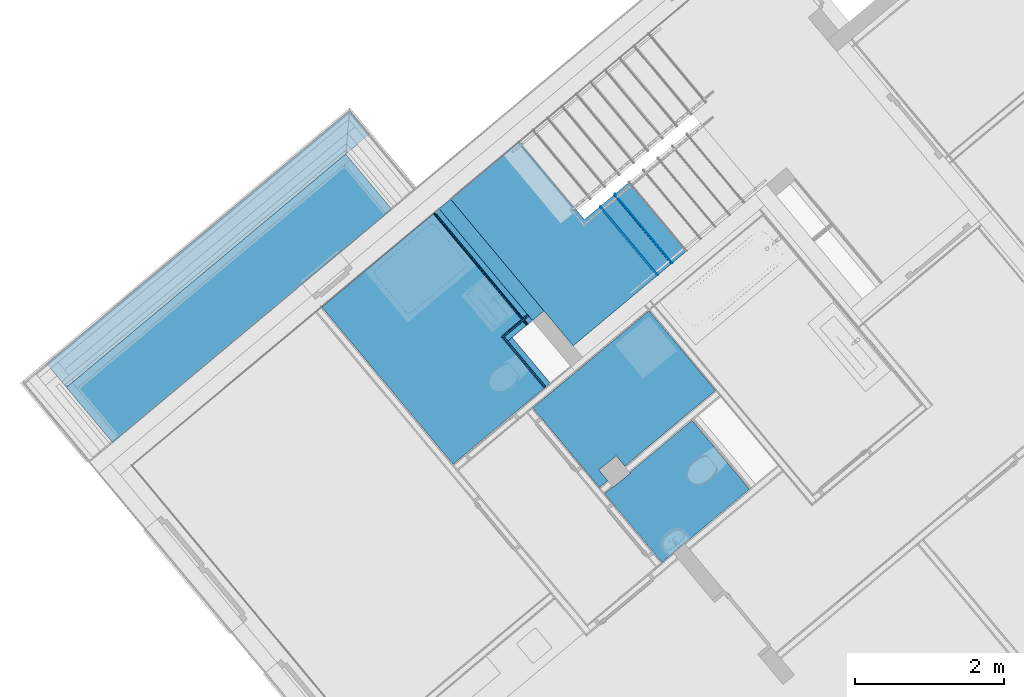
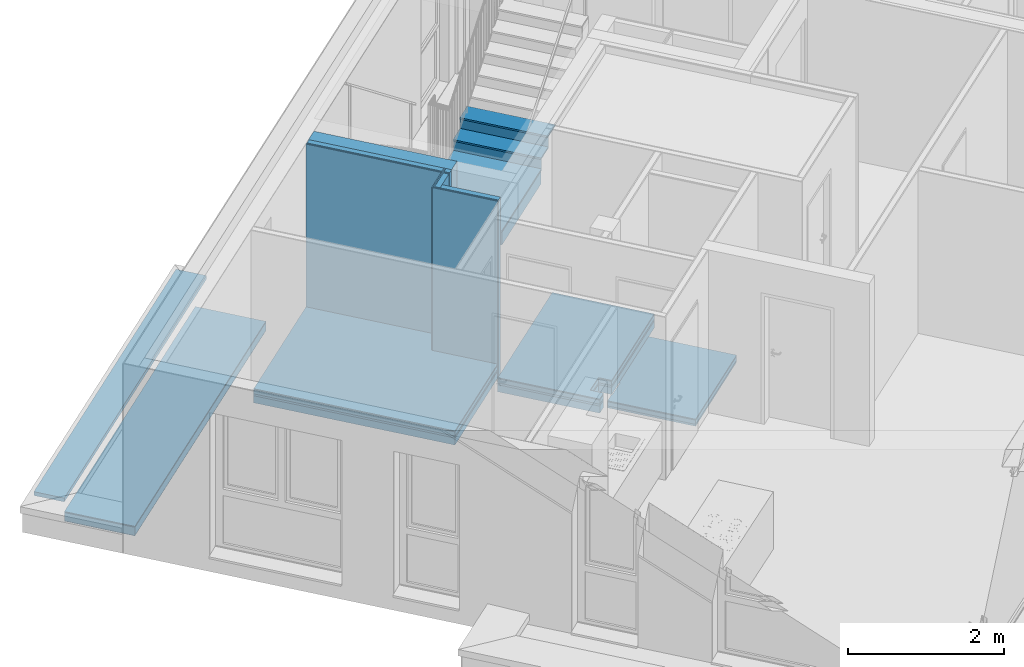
# One storey, part 24 of 58: 31 building element parts, 9 elements without a shape of their own.
"""IFC4 building model written with IfcOpenShell, lengths in metres."""

import ifcopenshell
import ifcopenshell.guid

model = None  # the IFC model being written
_history = None  # IfcOwnerHistory: only IFC2X3 demands one
_inside = {}  # id of a spatial element -> (the spatial element, [elements in it])
_under = {}  # id of a project, library or spatial element -> (it, [spatial elements below it])
_declared = {}  # id of a project -> (the project, [libraries it declares])
_typed = {}  # id of a type object -> (the type object, [elements of that type])
_made_of = {}  # id of a material, layer set ... -> (it, [elements and type objects made of it])


def new_model(schema):
    """Start an empty IFC model of exactly this schema.

    Asked for "IFC4X3", IfcOpenShell would pick the latest addendum, in which some entities
    have other attributes; the version numbers below select the first issue.
    IFC2X3 requires an IfcOwnerHistory on every rooted entity: one is made here for all.
    """
    global model, _history
    if schema == "IFC4X3":
        model = ifcopenshell.file(schema_version=(4, 3, 0, 0))
    else:
        model = ifcopenshell.file(schema=schema)
    _inside.clear()
    _under.clear()
    _declared.clear()
    _typed.clear()
    _made_of.clear()
    _history = None
    if model.schema == "IFC2X3":
        org = make("IfcOrganization", Name="unknown")
        user = make(
            "IfcPersonAndOrganization",
            ThePerson=make("IfcPerson", FamilyName="unknown"),
            TheOrganization=org,
        )
        app = make(
            "IfcApplication",
            ApplicationDeveloper=org,
            Version="unknown",
            ApplicationFullName="unknown",
            ApplicationIdentifier="unknown",
        )
        _history = make(
            "IfcOwnerHistory",
            OwningUser=user,
            OwningApplication=app,
            ChangeAction="ADDED",
            CreationDate=0,
        )
    return model


def make(cls, **values):
    """One entity of the class cls with the attributes given. An attribute that is None is left unset."""
    return model.create_entity(
        cls, **{name: value for name, value in values.items() if value is not None}
    )


def entity(cls, *values):
    """Any entity or typed value of the class cls, its attributes in the order of the schema. None: left unset."""
    e = model.create_entity(cls)
    for i, value in enumerate(values):
        if value is not None:
            e[i] = value
    return e


def rooted(cls, **values):
    """An entity with a GlobalId (a new one), such as an element, a storey or a relation."""
    return make(cls, GlobalId=ifcopenshell.guid.new(), OwnerHistory=_history, **values)


def si_unit(unit_type, name, prefix=None):
    """IfcSIUnit, for example si_unit("LENGTHUNIT", "METRE", prefix="MILLI")."""
    return make("IfcSIUnit", UnitType=unit_type, Prefix=prefix, Name=name)


def converted_unit(unit_type, name, factor, base, dimensions=None, offset=None):
    """IfcConversionBasedUnit, such as the inch: factor (a typed value) times the base unit."""
    return make(
        "IfcConversionBasedUnit"
        if offset is None
        else "IfcConversionBasedUnitWithOffset",
        ConversionOffset=offset,
        Dimensions=None
        if dimensions is None
        else entity("IfcDimensionalExponents", *dimensions),
        UnitType=unit_type,
        Name=name,
        ConversionFactor=make(
            "IfcMeasureWithUnit", ValueComponent=factor, UnitComponent=base
        ),
    )


def derived_unit(unit_type, elements):
    """IfcDerivedUnit: a product of units, each with its exponent."""
    return make(
        "IfcDerivedUnit",
        Elements=[
            make("IfcDerivedUnitElement", Unit=unit, Exponent=power)
            for unit, power in elements
        ],
        UnitType=unit_type,
    )


def assignment(units):
    """IfcUnitAssignment: the units of a project."""
    return None if units is None else make("IfcUnitAssignment", Units=units)


def point(xyz):
    """IfcCartesianPoint."""
    return None if xyz is None else make("IfcCartesianPoint", Coordinates=xyz)


def direction(xyz):
    """IfcDirection."""
    return None if xyz is None else make("IfcDirection", DirectionRatios=xyz)


def frame(location, z_axis=None, x_axis=None):
    """IfcAxis2Placement3D, a coordinate frame: its origin and axes. An axis left out is left unset."""
    return make(
        "IfcAxis2Placement3D",
        Location=point(location),
        Axis=direction(z_axis),
        RefDirection=direction(x_axis),
    )


def origin_with_axes():
    """The frame at (0, 0, 0) with the z axis (0, 0, 1) and the x axis (1, 0, 0) written out."""
    return frame((0.0, 0.0, 0.0), z_axis=(0.0, 0.0, 1.0), x_axis=(1.0, 0.0, 0.0))


def place(relative_to, where):
    """IfcLocalPlacement: puts the frame where relative to a parent placement (None: the world)."""
    return make(
        "IfcLocalPlacement", PlacementRelTo=relative_to, RelativePlacement=where
    )


def context(
    kind, dimensions, precision=None, world=None, true_north=None, identifier=None
):
    """IfcGeometricRepresentationContext, for example the 3D "Model" context."""
    return make(
        "IfcGeometricRepresentationContext",
        ContextIdentifier=identifier,
        ContextType=kind,
        CoordinateSpaceDimension=dimensions,
        Precision=precision,
        WorldCoordinateSystem=world,
        TrueNorth=true_north,
    )


def subcontext(parent, identifier, kind, view, scale=None):
    """IfcGeometricRepresentationSubContext, for example "Body" below "Model"."""
    return make(
        "IfcGeometricRepresentationSubContext",
        ContextIdentifier=identifier,
        ContextType=kind,
        ParentContext=parent,
        TargetScale=scale,
        TargetView=view,
    )


def project(units=None, contexts=None):
    """IfcProject with its units and contexts."""
    return rooted(
        "IfcProject",
        Name="project",
        RepresentationContexts=contexts,
        UnitsInContext=assignment(units),
    )


def spatial(cls, under=None, at=None, **own):
    """A site, building, storey or space (cls), placed at a placement, below another one or the project."""
    s = rooted(cls, ObjectPlacement=at, **own)
    if under is not None:
        _under.setdefault(under.id(), (under, []))[1].append(s)
    return s


def point_list(points):
    """IfcCartesianPointList2D or 3D."""
    cls = (
        "IfcCartesianPointList2D" if len(points[0]) == 2 else "IfcCartesianPointList3D"
    )
    return make(cls, CoordList=points)


def polygons(points, faces, closed=None, point_numbers=None):
    """IfcPolygonalFaceSet: a face is its outer loop, then its inner loops; points numbered from 1."""
    made = []
    for loops in faces:
        if len(loops) == 1:
            made.append(make("IfcIndexedPolygonalFace", CoordIndex=loops[0]))
        else:
            made.append(
                make(
                    "IfcIndexedPolygonalFaceWithVoids",
                    CoordIndex=loops[0],
                    InnerCoordIndices=loops[1:],
                )
            )
    return make(
        "IfcPolygonalFaceSet",
        Coordinates=point_list(points),
        Closed=closed,
        Faces=made,
        PnIndex=point_numbers,
    )


def shape(context_of_items, identifier, shape_type, items):
    """IfcShapeRepresentation: the items that make up one representation, for example the "Body"."""
    return make(
        "IfcShapeRepresentation",
        ContextOfItems=context_of_items,
        RepresentationIdentifier=identifier,
        RepresentationType=shape_type,
        Items=items,
    )


def material(Name=None, Category=None):
    """IfcMaterial."""
    return make("IfcMaterial", Name=Name, Category=Category)


def made_of(thing, what):
    """Note that an element or type object is made of a material, layer set ...; save() writes the relation."""
    if what is not None:
        _made_of.setdefault(what.id(), (what, []))[1].append(thing)
    return thing


def type_object(cls, material=None, **own):
    """A type object (cls), such as IfcWallType, which elements share."""
    return made_of(rooted(cls, **own), material)


def element(
    cls,
    number,
    at=None,
    inside=None,
    cuts=None,
    type_object=None,
    material=None,
    context=None,
    identifier="Body",
    shape_type=None,
    held_by="IfcProductDefinitionShape",
    body=None,
    shapes=None,
    **own,
):
    """One element of the class cls, such as IfcWall. Its Tag is "e" and its number.

    at: its placement. inside: the storey or other place that contains it. cuts: it is an
    opening in that element (IfcRelVoidsElement). A single representation is given by context,
    identifier, shape_type and body (its items); several are given by shapes. held_by: the class
    of the entity that holds the representations. save() writes the other relations.
    """
    e = rooted(cls, Tag="e%d" % number, ObjectPlacement=at, **own)
    if body is not None:
        shapes = [shape(context, identifier, shape_type, body)]
    if shapes is not None:
        e.Representation = make(held_by, Representations=shapes)
    if inside is not None:
        _inside.setdefault(inside.id(), (inside, []))[1].append(e)
    if cuts is not None:
        rooted(
            "IfcRelVoidsElement", RelatingBuildingElement=cuts, RelatedOpeningElement=e
        )
    if type_object is not None:
        _typed.setdefault(type_object.id(), (type_object, []))[1].append(e)
    return made_of(e, material)


def aggregate(whole, parts):
    """IfcRelAggregates: a whole, such as a stair, and the parts it consists of."""
    return rooted("IfcRelAggregates", RelatingObject=whole, RelatedObjects=parts)


def save(model, path):
    """Write the relations noted so far, then the file.

    IfcRelAggregates (storeys below a building ...), IfcRelContainedInSpatialStructure (elements
    in a storey), IfcRelDefinesByType, IfcRelAssociatesMaterial and IfcRelDeclares: one each for
    every whole, place, type object, material and project.
    """
    for whole, parts in _under.values():
        aggregate(whole, parts)
    for where, things in _inside.values():
        rooted(
            "IfcRelContainedInSpatialStructure",
            RelatedElements=things,
            RelatingStructure=where,
        )
    for kind, things in _typed.values():
        rooted("IfcRelDefinesByType", RelatedObjects=things, RelatingType=kind)
    for what, things in _made_of.values():
        rooted("IfcRelAssociatesMaterial", RelatedObjects=things, RelatingMaterial=what)
    for by, libraries in _declared.values():
        rooted("IfcRelDeclares", RelatingContext=by, RelatedDefinitions=libraries)
    model.write(path)


model = new_model("IFC4")

# Units and contexts
model_context = context("Model", 3, precision=1e-05, world=origin_with_axes(), true_north=direction((0.0, 1.0)))
body_context = subcontext(model_context, "Body", "Model", "MODEL_VIEW")
ifc_project = project(units=[si_unit("LENGTHUNIT", "METRE"), si_unit("AREAUNIT", "SQUARE_METRE"), si_unit("VOLUMEUNIT", "CUBIC_METRE"), converted_unit("PLANEANGLEUNIT", "DEGREE", entity("IfcPlaneAngleMeasure", 0.0174532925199), si_unit("PLANEANGLEUNIT", "RADIAN"), dimensions=[0, 0, 0, 0, 0, 0, 0]), converted_unit("TIMEUNIT", "Year", entity("IfcTimeMeasure", 31556926.0), si_unit("TIMEUNIT", "SECOND"), dimensions=[0, 0, 1, 0, 0, 0, 0]), si_unit("MASSUNIT", "GRAM", prefix="KILO"), si_unit("THERMODYNAMICTEMPERATUREUNIT", "DEGREE_CELSIUS"), si_unit("LUMINOUSINTENSITYUNIT", "LUMEN"), si_unit("ENERGYUNIT", "JOULE", prefix="MEGA"), derived_unit("THERMALCONDUCTANCEUNIT", [(si_unit("POWERUNIT", "WATT"), 1), (si_unit("LENGTHUNIT", "METRE"), -1), (si_unit("THERMODYNAMICTEMPERATUREUNIT", "KELVIN"), -1)]), derived_unit("SPECIFICHEATCAPACITYUNIT", [(si_unit("ENERGYUNIT", "JOULE"), 1), (si_unit("MASSUNIT", "GRAM", prefix="KILO"), -1), (si_unit("THERMODYNAMICTEMPERATUREUNIT", "KELVIN"), -1)]), derived_unit("MASSDENSITYUNIT", [(si_unit("MASSUNIT", "GRAM", prefix="KILO"), 1), (si_unit("VOLUMEUNIT", "CUBIC_METRE"), -1)])], contexts=[model_context])

# Site, building, storey
site_placement = place(None, frame((-0.00153261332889, -0.00661245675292, 0.0), z_axis=(0.0, 0.0, 1.0), x_axis=(1.0, 0.0, 0.0)))
site = spatial("IfcSite", under=ifc_project, at=site_placement, Name="Site", CompositionType="ELEMENT")
building_placement = place(site_placement, origin_with_axes())
building = spatial("IfcBuilding", under=site, at=building_placement, Name="Building", CompositionType="ELEMENT")
storey_placement = place(building_placement, frame((0.0, 0.0, 5.7), z_axis=(0.0, 0.0, 1.0), x_axis=(1.0, 0.0, 0.0)))
storey = spatial("IfcBuildingStorey", under=building, at=storey_placement, Name="DG1", CompositionType="ELEMENT", Elevation=5.7)

# Wall, building element parts
wall_type_1 = type_object("IfcWallType", Name="LB 10,5 cm doppelte Vorsatzschale Bad 105", PredefinedType="NOTDEFINED")
wall_1_placement = place(storey_placement, frame((-3.007781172, 20.6786353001, 0.0), z_axis=(0.0, 0.0, 1.0), x_axis=(0.641209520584, -0.767365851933, 0.0)))
wall_1 = element("IfcWall", 1, at=wall_1_placement, inside=storey, type_object=wall_type_1, Name="Wand-004", PredefinedType="NOTDEFINED")
ifc_material_1 = material(Name="Mineralwolle weich")
building_element_part_1_placement = place(wall_1_placement, origin_with_axes())
building_element_part_1 = element("IfcBuildingElementPart", 2, at=building_element_part_1_placement, material=ifc_material_1, Name="Mineralwolle weich", PredefinedType="NOTDEFINED", context=body_context, shape_type="Tessellation", body=[
    polygons([(0.795549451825, 0.0, 2.76), (0.0, 0.0, 2.76), (0.0, -0.075, 2.76), (0.795584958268, -0.075, 2.76), (0.795549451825, 0.0, 0.0), (0.0, 0.0, 0.0), (0.0, -0.075, 0.0), (0.795584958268, -0.075, 0.0)], [[[1, 2, 3, 4]], [[5, 6, 2, 1]], [[3, 2, 6, 7]], [[4, 3, 7, 8]], [[4, 8, 5, 1]], [[8, 7, 6, 5]]], closed=True),
])
ifc_material_2 = material(Name="Gipskarton")
building_element_part_2_placement = place(wall_1_placement, origin_with_axes())
building_element_part_2 = element("IfcBuildingElementPart", 3, at=building_element_part_2_placement, material=ifc_material_2, Name="Gipskarton", PredefinedType="NOTDEFINED", context=body_context, shape_type="Tessellation", body=[
    polygons([(0.795584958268, -0.075, 2.76), (-0.0750000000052, -0.075, 2.76), (-0.0750000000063, -0.09, 2.76), (0.795592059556, -0.09, 2.76), (0.795584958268, -0.075, 0.0), (-0.0750000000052, -0.075, 0.0), (-0.0750000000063, -0.09, 0.0), (0.795592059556, -0.09, 0.0)], [[[1, 2, 3, 4]], [[5, 6, 2, 1]], [[3, 2, 6, 7]], [[4, 3, 7, 8]], [[4, 8, 5, 1]], [[8, 7, 6, 5]]], closed=True),
])
building_element_part_3_placement = place(wall_1_placement, origin_with_axes())
building_element_part_3 = element("IfcBuildingElementPart", 4, at=building_element_part_3_placement, material=ifc_material_2, Name="Gipskarton", PredefinedType="NOTDEFINED", context=body_context, shape_type="Tessellation", body=[
    polygons([(0.795592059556, -0.09, 2.76), (-0.0900000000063, -0.09, 2.76), (-0.0900000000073, -0.105, 2.76), (0.795599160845, -0.105, 2.76), (0.795592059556, -0.09, 0.0), (-0.0900000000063, -0.09, 0.0), (-0.0900000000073, -0.105, 0.0), (0.795599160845, -0.105, 0.0)], [[[1, 2, 3, 4]], [[5, 6, 2, 1]], [[3, 2, 6, 7]], [[4, 3, 7, 8]], [[4, 8, 5, 1]], [[8, 7, 6, 5]]], closed=True),
])
aggregate(wall_1, [building_element_part_1, building_element_part_2, building_element_part_3])

wall_2_placement = place(storey_placement, frame((-2.73492476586, 20.9066336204, 0.0), z_axis=(0.0, 0.0, 1.0), x_axis=(-0.767365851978, -0.64120952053, 0.0)))
wall_2 = element("IfcWall", 5, at=wall_2_placement, inside=storey, type_object=wall_type_1, Name="Wand-004", PredefinedType="NOTDEFINED")
building_element_part_4_placement = place(wall_2_placement, origin_with_axes())
building_element_part_4 = element("IfcBuildingElementPart", 6, at=building_element_part_4_placement, material=ifc_material_1, Name="Mineralwolle weich", PredefinedType="NOTDEFINED", context=body_context, shape_type="Tessellation", body=[
    polygons([(0.430575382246, 0.0, 2.76), (0.0, 0.0, 2.76), (0.0, -0.075, 2.76), (0.430575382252, -0.075, 2.76), (0.430575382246, 0.0, 0.0), (0.0, 0.0, 0.0), (0.0, -0.075, 0.0), (0.430575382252, -0.075, 0.0)], [[[1, 2, 3, 4]], [[5, 6, 2, 1]], [[3, 2, 6, 7]], [[4, 3, 7, 8]], [[4, 8, 5, 1]], [[8, 7, 6, 5]]], closed=True),
])
building_element_part_5_placement = place(wall_2_placement, origin_with_axes())
building_element_part_5 = element("IfcBuildingElementPart", 7, at=building_element_part_5_placement, material=ifc_material_2, Name="Gipskarton", PredefinedType="NOTDEFINED", context=body_context, shape_type="Tessellation", body=[
    polygons([(0.445575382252, -0.075, 2.76), (0.0, -0.075, 2.76), (0.0, -0.09, 2.76), (0.445575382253, -0.09, 2.76), (0.445575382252, -0.075, 0.0), (0.0, -0.075, 0.0), (0.0, -0.09, 0.0), (0.445575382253, -0.09, 0.0)], [[[1, 2, 3, 4]], [[5, 6, 2, 1]], [[3, 2, 6, 7]], [[4, 3, 7, 8]], [[4, 8, 5, 1]], [[8, 7, 6, 5]]], closed=True),
])
building_element_part_6_placement = place(wall_2_placement, origin_with_axes())
building_element_part_6 = element("IfcBuildingElementPart", 8, at=building_element_part_6_placement, material=ifc_material_2, Name="Gipskarton", PredefinedType="NOTDEFINED", context=body_context, shape_type="Tessellation", body=[
    polygons([(0.460575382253, -0.09, 2.76), (0.0, -0.09, 2.76), (0.0, -0.105, 2.76), (0.460575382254, -0.105, 2.76), (0.460575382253, -0.09, 0.0), (0.0, -0.09, 0.0), (0.0, -0.105, 0.0), (0.460575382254, -0.105, 0.0)], [[[1, 2, 3, 4]], [[5, 6, 2, 1]], [[3, 2, 6, 7]], [[4, 3, 7, 8]], [[4, 8, 5, 1]], [[8, 7, 6, 5]]], closed=True),
])
aggregate(wall_2, [building_element_part_4, building_element_part_5, building_element_part_6])

wall_type_2 = type_object("IfcWallType", Name="LB 10,5 cm doppelte Vorsatzschale Bad + STB 305", PredefinedType="NOTDEFINED")
wall_3_placement = place(storey_placement, frame((-2.58145159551, 21.0348755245, 0.0), z_axis=(0.0, 0.0, 1.0), x_axis=(-0.641209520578, 0.767365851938, 0.0)))
wall_3 = element("IfcWall", 9, at=wall_3_placement, inside=storey, type_object=wall_type_2, Name="Wand-003", PredefinedType="NOTDEFINED")
building_element_part_7_placement = place(wall_3_placement, origin_with_axes())
building_element_part_7 = element("IfcBuildingElementPart", 10, at=building_element_part_7_placement, material=ifc_material_2, Name="Gipskarton", PredefinedType="NOTDEFINED", context=body_context, shape_type="Tessellation", body=[
    polygons([(1.94498975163, 0.29, 0.0), (0.0, 0.29, 0.0), (0.0, 0.305, 0.0), (1.94498975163, 0.305, 0.0), (1.94498975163, 0.29, 2.76), (0.0, 0.29, 2.76), (0.0, 0.305, 2.76), (1.94498975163, 0.305, 2.76)], [[[1, 2, 3, 4]], [[5, 6, 2, 1]], [[3, 2, 6, 7]], [[4, 3, 7, 8]], [[4, 8, 5, 1]], [[8, 7, 6, 5]]], closed=True),
])
building_element_part_8_placement = place(wall_3_placement, origin_with_axes())
building_element_part_8 = element("IfcBuildingElementPart", 11, at=building_element_part_8_placement, material=ifc_material_2, Name="Gipskarton", PredefinedType="NOTDEFINED", context=body_context, shape_type="Tessellation", body=[
    polygons([(1.94498975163, 0.275, 0.0), (0.0, 0.275, 0.0), (0.0, 0.29, 0.0), (1.94498975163, 0.29, 0.0), (1.94498975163, 0.275, 2.76), (0.0, 0.275, 2.76), (0.0, 0.29, 2.76), (1.94498975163, 0.29, 2.76)], [[[1, 2, 3, 4]], [[5, 6, 2, 1]], [[3, 2, 6, 7]], [[4, 3, 7, 8]], [[4, 8, 5, 1]], [[8, 7, 6, 5]]], closed=True),
])
building_element_part_9_placement = place(wall_3_placement, origin_with_axes())
building_element_part_9 = element("IfcBuildingElementPart", 12, at=building_element_part_9_placement, material=ifc_material_1, Name="Mineralwolle weich", PredefinedType="NOTDEFINED", context=body_context, shape_type="Tessellation", body=[
    polygons([(1.94498975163, 0.2, 0.0), (0.0, 0.2, 0.0), (0.0, 0.275, 0.0), (1.94498975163, 0.275, 0.0), (1.94498975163, 0.2, 2.76), (0.0, 0.2, 2.76), (0.0, 0.275, 2.76), (1.94498975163, 0.275, 2.76)], [[[1, 2, 3, 4]], [[5, 6, 2, 1]], [[3, 2, 6, 7]], [[4, 3, 7, 8]], [[4, 8, 5, 1]], [[8, 7, 6, 5]]], closed=True),
])
ifc_material_3 = material(Name="Stahlbeton Wand")
building_element_part_10_placement = place(wall_3_placement, origin_with_axes())
building_element_part_10 = element("IfcBuildingElementPart", 13, at=building_element_part_10_placement, material=ifc_material_3, Name="Stahlbeton Wand", PredefinedType="NOTDEFINED", context=body_context, shape_type="Tessellation", body=[
    polygons([(1.94998975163, 0.0, 0.0), (0.0, 0.0, 0.0), (0.0, 0.2, 0.0), (1.94998975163, 0.2, 0.0), (1.94998975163, 0.0, 2.76), (0.0, 0.0, 2.76), (0.0, 0.2, 2.76), (1.94998975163, 0.2, 2.76)], [[[1, 2, 3, 4]], [[5, 6, 2, 1]], [[3, 2, 6, 7]], [[4, 3, 7, 8]], [[4, 8, 5, 1]], [[8, 7, 6, 5]]], closed=True),
])
aggregate(wall_3, [building_element_part_7, building_element_part_8, building_element_part_9, building_element_part_10])

# Covering, building element parts
covering_type_1 = type_object("IfcCoveringType", Name="DE 01 Decke Wohnung/Wohnung Fließen 220", PredefinedType="NOTDEFINED")
covering_1_placement = place(storey_placement, frame((-4.06264411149, 22.3318253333, 0.22), z_axis=(0.0, 0.0, 1.0), x_axis=(1.0, 0.0, 0.0)))
covering_1 = element("IfcCovering", 14, at=covering_1_placement, inside=storey, type_object=covering_type_1, Name="Decke-004", PredefinedType="NOTDEFINED")
ifc_material_4 = material(Name="Fliesen")
building_element_part_11_placement = place(covering_1_placement, origin_with_axes())
building_element_part_11 = element("IfcBuildingElementPart", 15, at=building_element_part_11_placement, material=ifc_material_4, Name="Fliesen", PredefinedType="NOTDEFINED", context=body_context, shape_type="Tessellation", body=[
    polygons([(-1.49248991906, -1.24712185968, -0.015), (-1.49248991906, -1.24712185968, 0.0), (0.0, 0.0, 0.0), (0.0, 0.0, -0.015), (0.265284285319, -3.35073360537, -0.015), (0.265284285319, -3.35073360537, 0.0), (1.48443528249, -2.33103266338, 0.0), (0.906962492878, -1.63994360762, 0.0), (1.17981894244, -1.411945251, 0.0), (1.17981894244, -1.411945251, -0.015), (0.906962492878, -1.63994360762, -0.015), (1.48443528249, -2.33103266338, -0.015)], [[[1, 2, 3, 4]], [[5, 6, 2, 1]], [[3, 2, 6, 7, 8, 9]], [[4, 3, 9, 10]], [[4, 10, 11, 12, 5, 1]], [[12, 7, 6, 5]], [[11, 8, 7, 12]], [[10, 9, 8, 11]]], closed=True),
])
ifc_material_5 = material(Name="Estrich")
building_element_part_12_placement = place(covering_1_placement, origin_with_axes())
building_element_part_12 = element("IfcBuildingElementPart", 16, at=building_element_part_12_placement, material=ifc_material_5, Name="Estrich", PredefinedType="NOTDEFINED", context=body_context, shape_type="Tessellation", body=[
    polygons([(-1.49248991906, -1.24712185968, -0.08), (-1.49248991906, -1.24712185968, -0.015), (0.0, 0.0, -0.015), (0.0, 0.0, -0.08), (0.265284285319, -3.35073360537, -0.08), (0.265284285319, -3.35073360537, -0.015), (1.48443528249, -2.33103266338, -0.015), (0.906962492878, -1.63994360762, -0.015), (1.17981894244, -1.411945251, -0.015), (1.17981894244, -1.411945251, -0.08), (0.906962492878, -1.63994360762, -0.08), (1.48443528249, -2.33103266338, -0.08)], [[[1, 2, 3, 4]], [[5, 6, 2, 1]], [[3, 2, 6, 7, 8, 9]], [[4, 3, 9, 10]], [[4, 10, 11, 12, 5, 1]], [[12, 7, 6, 5]], [[11, 8, 7, 12]], [[10, 9, 8, 11]]], closed=True),
])
ifc_material_6 = material(Name="Trittschalldämmung")
building_element_part_13_placement = place(covering_1_placement, origin_with_axes())
building_element_part_13 = element("IfcBuildingElementPart", 17, at=building_element_part_13_placement, material=ifc_material_6, Name="Trittschalldämmung", PredefinedType="NOTDEFINED", context=body_context, shape_type="Tessellation", body=[
    polygons([(-1.49248991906, -1.24712185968, -0.11), (-1.49248991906, -1.24712185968, -0.08), (0.0, 0.0, -0.08), (0.0, 0.0, -0.11), (0.265284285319, -3.35073360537, -0.11), (0.265284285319, -3.35073360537, -0.08), (1.48443528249, -2.33103266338, -0.08), (0.906962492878, -1.63994360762, -0.08), (1.17981894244, -1.411945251, -0.08), (1.17981894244, -1.411945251, -0.11), (0.906962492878, -1.63994360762, -0.11), (1.48443528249, -2.33103266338, -0.11)], [[[1, 2, 3, 4]], [[5, 6, 2, 1]], [[3, 2, 6, 7, 8, 9]], [[4, 3, 9, 10]], [[4, 10, 11, 12, 5, 1]], [[12, 7, 6, 5]], [[11, 8, 7, 12]], [[10, 9, 8, 11]]], closed=True),
])
ifc_material_7 = material(Name="Schüttung")
building_element_part_14_placement = place(covering_1_placement, origin_with_axes())
building_element_part_14 = element("IfcBuildingElementPart", 18, at=building_element_part_14_placement, material=ifc_material_7, Name="Schüttung", PredefinedType="NOTDEFINED", context=body_context, shape_type="Tessellation", body=[
    polygons([(0.0, 0.0, -0.22), (-1.49248991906, -1.24712185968, -0.22), (-1.49248991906, -1.24712185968, -0.11), (0.0, 0.0, -0.11), (1.17981894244, -1.411945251, -0.22), (0.906962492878, -1.63994360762, -0.22), (1.48443528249, -2.33103266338, -0.22), (0.265284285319, -3.35073360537, -0.22), (0.265284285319, -3.35073360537, -0.11), (1.48443528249, -2.33103266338, -0.11), (0.906962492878, -1.63994360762, -0.11), (1.17981894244, -1.411945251, -0.11)], [[[1, 2, 3, 4]], [[1, 5, 6, 7, 8, 2]], [[2, 8, 9, 3]], [[4, 3, 9, 10, 11, 12]], [[5, 1, 4, 12]], [[6, 5, 12, 11]], [[7, 6, 11, 10]], [[8, 7, 10, 9]]], closed=True),
])
aggregate(covering_1, [building_element_part_11, building_element_part_12, building_element_part_13, building_element_part_14])

covering_2_placement = place(storey_placement, frame((-2.72972930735, 19.7371746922, 0.22), z_axis=(0.0, 0.0, 1.0), x_axis=(1.0, 0.0, 0.0)))
covering_2 = element("IfcCovering", 19, at=covering_2_placement, inside=storey, type_object=covering_type_1, Name="Decke-003", PredefinedType="NOTDEFINED")
building_element_part_15_placement = place(covering_2_placement, origin_with_axes())
building_element_part_15 = element("IfcBuildingElementPart", 20, at=building_element_part_15_placement, material=ifc_material_4, Name="Fliesen", PredefinedType="NOTDEFINED", context=body_context, shape_type="Tessellation", body=[
    polygons([(0.89117400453, -1.06651021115, -0.015), (0.89117400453, -1.06651021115, 0.0), (0.0, 0.0, 0.0), (0.0, 0.0, -0.015), (1.00072286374, -0.974971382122, -0.015), (1.00072286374, -0.974971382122, 0.0), (0.883663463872, -0.830548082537, 0.0), (1.11672221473, -0.641647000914, 0.0), (1.2309583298, -0.782587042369, 0.0), (2.44582096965, 0.232549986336, 0.0), (1.55442053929, 1.29933116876, 0.0), (1.55442053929, 1.29933116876, -0.015), (2.44582096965, 0.232549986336, -0.015), (1.2309583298, -0.782587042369, -0.015), (1.11672221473, -0.641647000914, -0.015), (0.883663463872, -0.830548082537, -0.015)], [[[1, 2, 3, 4]], [[5, 6, 2, 1]], [[3, 2, 6, 7, 8, 9, 10, 11]], [[4, 3, 11, 12]], [[4, 12, 13, 14, 15, 16, 5, 1]], [[16, 7, 6, 5]], [[15, 8, 7, 16]], [[14, 9, 8, 15]], [[13, 10, 9, 14]], [[12, 11, 10, 13]]], closed=True),
])
building_element_part_16_placement = place(covering_2_placement, origin_with_axes())
building_element_part_16 = element("IfcBuildingElementPart", 21, at=building_element_part_16_placement, material=ifc_material_5, Name="Estrich", PredefinedType="NOTDEFINED", context=body_context, shape_type="Tessellation", body=[
    polygons([(0.89117400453, -1.06651021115, -0.08), (0.89117400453, -1.06651021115, -0.015), (0.0, 0.0, -0.015), (0.0, 0.0, -0.08), (1.00072286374, -0.974971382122, -0.08), (1.00072286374, -0.974971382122, -0.015), (0.883663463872, -0.830548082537, -0.015), (1.11672221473, -0.641647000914, -0.015), (1.2309583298, -0.782587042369, -0.015), (2.44582096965, 0.232549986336, -0.015), (1.55442053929, 1.29933116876, -0.015), (1.55442053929, 1.29933116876, -0.08), (2.44582096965, 0.232549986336, -0.08), (1.2309583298, -0.782587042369, -0.08), (1.11672221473, -0.641647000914, -0.08), (0.883663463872, -0.830548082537, -0.08)], [[[1, 2, 3, 4]], [[5, 6, 2, 1]], [[3, 2, 6, 7, 8, 9, 10, 11]], [[4, 3, 11, 12]], [[4, 12, 13, 14, 15, 16, 5, 1]], [[16, 7, 6, 5]], [[15, 8, 7, 16]], [[14, 9, 8, 15]], [[13, 10, 9, 14]], [[12, 11, 10, 13]]], closed=True),
])
building_element_part_17_placement = place(covering_2_placement, origin_with_axes())
building_element_part_17 = element("IfcBuildingElementPart", 22, at=building_element_part_17_placement, material=ifc_material_6, Name="Trittschalldämmung", PredefinedType="NOTDEFINED", context=body_context, shape_type="Tessellation", body=[
    polygons([(0.89117400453, -1.06651021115, -0.11), (0.89117400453, -1.06651021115, -0.08), (0.0, 0.0, -0.08), (0.0, 0.0, -0.11), (1.00072286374, -0.974971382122, -0.11), (1.00072286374, -0.974971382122, -0.08), (0.883663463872, -0.830548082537, -0.08), (1.11672221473, -0.641647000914, -0.08), (1.2309583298, -0.782587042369, -0.08), (2.44582096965, 0.232549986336, -0.08), (1.55442053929, 1.29933116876, -0.08), (1.55442053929, 1.29933116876, -0.11), (2.44582096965, 0.232549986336, -0.11), (1.2309583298, -0.782587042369, -0.11), (1.11672221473, -0.641647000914, -0.11), (0.883663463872, -0.830548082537, -0.11)], [[[1, 2, 3, 4]], [[5, 6, 2, 1]], [[3, 2, 6, 7, 8, 9, 10, 11]], [[4, 3, 11, 12]], [[4, 12, 13, 14, 15, 16, 5, 1]], [[16, 7, 6, 5]], [[15, 8, 7, 16]], [[14, 9, 8, 15]], [[13, 10, 9, 14]], [[12, 11, 10, 13]]], closed=True),
])
building_element_part_18_placement = place(covering_2_placement, origin_with_axes())
building_element_part_18 = element("IfcBuildingElementPart", 23, at=building_element_part_18_placement, material=ifc_material_7, Name="Schüttung", PredefinedType="NOTDEFINED", context=body_context, shape_type="Tessellation", body=[
    polygons([(0.0, 0.0, -0.22), (0.89117400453, -1.06651021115, -0.22), (0.89117400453, -1.06651021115, -0.11), (0.0, 0.0, -0.11), (1.55442053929, 1.29933116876, -0.22), (2.44582096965, 0.232549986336, -0.22), (1.2309583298, -0.782587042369, -0.22), (1.11672221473, -0.641647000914, -0.22), (0.883663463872, -0.830548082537, -0.22), (1.00072286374, -0.974971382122, -0.22), (1.00072286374, -0.974971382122, -0.11), (0.883663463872, -0.830548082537, -0.11), (1.11672221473, -0.641647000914, -0.11), (1.2309583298, -0.782587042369, -0.11), (2.44582096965, 0.232549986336, -0.11), (1.55442053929, 1.29933116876, -0.11)], [[[1, 2, 3, 4]], [[1, 5, 6, 7, 8, 9, 10, 2]], [[2, 10, 11, 3]], [[4, 3, 11, 12, 13, 14, 15, 16]], [[5, 1, 4, 16]], [[6, 5, 16, 15]], [[7, 6, 15, 14]], [[8, 7, 14, 13]], [[9, 8, 13, 12]], [[10, 9, 12, 11]]], closed=True),
])
aggregate(covering_2, [building_element_part_15, building_element_part_16, building_element_part_17, building_element_part_18])

covering_3_placement = place(storey_placement, frame((-1.77122830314, 18.5900910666, 0.22), z_axis=(0.0, 0.0, 1.0), x_axis=(1.0, 0.0, 0.0)))
covering_3 = element("IfcCovering", 24, at=covering_3_placement, inside=storey, type_object=covering_type_1, Name="Decke-004", PredefinedType="NOTDEFINED")
building_element_part_19_placement = place(covering_3_placement, origin_with_axes())
building_element_part_19 = element("IfcBuildingElementPart", 25, at=building_element_part_19_placement, material=ifc_material_4, Name="Fliesen", PredefinedType="NOTDEFINED", context=body_context, shape_type="Tessellation", body=[
    polygons([(0.769373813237, -0.920746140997, -0.015), (0.769373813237, -0.920746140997, 0.0), (0.0, 0.0, 0.0), (0.0, 0.0, -0.015), (1.94013256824, 0.0575377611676, -0.015), (1.94013256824, 0.0575377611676, 0.0), (1.170758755, 0.978283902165, 0.0), (0.338580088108, 0.282916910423, 0.0), (0.34712229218, 0.272377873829, 0.0), (0.114063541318, 0.0834767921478, 0.0), (0.108344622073, 0.0905325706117, 0.0), (0.108344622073, 0.0905325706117, -0.015), (0.114063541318, 0.0834767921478, -0.015), (0.34712229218, 0.272377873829, -0.015), (0.338580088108, 0.282916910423, -0.015), (1.170758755, 0.978283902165, -0.015)], [[[1, 2, 3, 4]], [[5, 6, 2, 1]], [[3, 2, 6, 7, 8, 9, 10, 11]], [[4, 3, 11, 12]], [[4, 12, 13, 14, 15, 16, 5, 1]], [[16, 7, 6, 5]], [[15, 8, 7, 16]], [[14, 9, 8, 15]], [[13, 10, 9, 14]], [[12, 11, 10, 13]]], closed=True),
])
building_element_part_20_placement = place(covering_3_placement, origin_with_axes())
building_element_part_20 = element("IfcBuildingElementPart", 26, at=building_element_part_20_placement, material=ifc_material_5, Name="Estrich", PredefinedType="NOTDEFINED", context=body_context, shape_type="Tessellation", body=[
    polygons([(0.769373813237, -0.920746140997, -0.08), (0.769373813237, -0.920746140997, -0.015), (0.0, 0.0, -0.015), (0.0, 0.0, -0.08), (1.94013256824, 0.0575377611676, -0.08), (1.94013256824, 0.0575377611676, -0.015), (1.170758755, 0.978283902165, -0.015), (0.338580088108, 0.282916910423, -0.015), (0.34712229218, 0.272377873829, -0.015), (0.114063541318, 0.0834767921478, -0.015), (0.108344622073, 0.0905325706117, -0.015), (0.108344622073, 0.0905325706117, -0.08), (0.114063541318, 0.0834767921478, -0.08), (0.34712229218, 0.272377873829, -0.08), (0.338580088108, 0.282916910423, -0.08), (1.170758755, 0.978283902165, -0.08)], [[[1, 2, 3, 4]], [[5, 6, 2, 1]], [[3, 2, 6, 7, 8, 9, 10, 11]], [[4, 3, 11, 12]], [[4, 12, 13, 14, 15, 16, 5, 1]], [[16, 7, 6, 5]], [[15, 8, 7, 16]], [[14, 9, 8, 15]], [[13, 10, 9, 14]], [[12, 11, 10, 13]]], closed=True),
])
building_element_part_21_placement = place(covering_3_placement, origin_with_axes())
building_element_part_21 = element("IfcBuildingElementPart", 27, at=building_element_part_21_placement, material=ifc_material_6, Name="Trittschalldämmung", PredefinedType="NOTDEFINED", context=body_context, shape_type="Tessellation", body=[
    polygons([(0.769373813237, -0.920746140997, -0.11), (0.769373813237, -0.920746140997, -0.08), (0.0, 0.0, -0.08), (0.0, 0.0, -0.11), (1.94013256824, 0.0575377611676, -0.11), (1.94013256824, 0.0575377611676, -0.08), (1.170758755, 0.978283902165, -0.08), (0.338580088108, 0.282916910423, -0.08), (0.34712229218, 0.272377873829, -0.08), (0.114063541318, 0.0834767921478, -0.08), (0.108344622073, 0.0905325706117, -0.08), (0.108344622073, 0.0905325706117, -0.11), (0.114063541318, 0.0834767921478, -0.11), (0.34712229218, 0.272377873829, -0.11), (0.338580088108, 0.282916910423, -0.11), (1.170758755, 0.978283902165, -0.11)], [[[1, 2, 3, 4]], [[5, 6, 2, 1]], [[3, 2, 6, 7, 8, 9, 10, 11]], [[4, 3, 11, 12]], [[4, 12, 13, 14, 15, 16, 5, 1]], [[16, 7, 6, 5]], [[15, 8, 7, 16]], [[14, 9, 8, 15]], [[13, 10, 9, 14]], [[12, 11, 10, 13]]], closed=True),
])
aggregate(covering_3, [building_element_part_19, building_element_part_20, building_element_part_21])

# Stair, building element parts
stair_type = type_object("IfcStairType", Name="Treppentyp", PredefinedType="NOTDEFINED")
stair_placement = place(storey_placement, frame((-0.972083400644, 24.9200947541, 0.05), z_axis=(0.0, 0.0, 1.0), x_axis=(1.0, 0.0, 0.0)))
stair = element("IfcStair", 28, at=stair_placement, inside=storey, type_object=stair_type, Name="Treppe - 001", PredefinedType="NOTDEFINED")
ifc_material_8 = material(Name="Stahlbeton Decke")
building_element_part_22_placement = place(stair_placement, origin_with_axes())
building_element_part_22 = element("IfcBuildingElementPart", 29, at=building_element_part_22_placement, material=ifc_material_8, Name="Stahlbeton Decke", PredefinedType="NOTDEFINED", context=body_context, shape_type="Tessellation", body=[
    polygons([(-0.0995859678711, -3.41907180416, 1.54558823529), (-0.0995859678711, -3.41907180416, 1.74558823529), (-1.21798601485, -4.3536048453, 1.74558823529), (-1.21798601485, -4.3536048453, 1.54558823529), (-0.869037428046, -2.49823278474, 1.74558823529), (-0.869037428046, -2.49823278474, 1.54558823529), (-1.06659845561, -2.66331440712, 1.74558823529), (-1.16916165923, -2.5405721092, 1.74558823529), (-1.18404787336, -2.55300972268, 1.74558823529), (-1.95345217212, -1.63213131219, 1.74558823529), (-2.85949147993, -2.38913738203, 1.74558823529), (-2.85949147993, -2.38913738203, 1.54558823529), (-1.93419043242, -1.61603796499, 1.54558823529), (-1.16478618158, -2.53691636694, 1.54558823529), (-1.16916165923, -2.5405721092, 1.54558823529), (-1.06659845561, -2.66331440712, 1.54558823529), (-1.16916165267, -2.54057211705, 1.56852941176), (-1.18404787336, -2.55300972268, 1.56852941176), (-1.95345217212, -1.63213131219, 1.56852941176), (-1.93419043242, -1.61603796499, 1.56852941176), (-1.16478618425, -2.53691636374, 1.56852941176)], [[[1, 2, 3, 4]], [[5, 2, 1, 6]], [[2, 5, 7, 8, 9, 10, 11, 3]], [[3, 11, 12, 4]], [[6, 1, 4, 12, 13, 14, 15, 16]], [[5, 6, 16, 7]], [[8, 7, 16, 15, 17]], [[8, 17, 18, 9]], [[18, 19, 10, 9]], [[13, 12, 11, 10, 19, 20]], [[14, 13, 20, 21]], [[21, 17, 15, 14]], [[20, 19, 18, 17, 21]]], closed=True),
])
ifc_material_9 = material(Name="BEKLEIDUNG")
building_element_part_23_placement = place(stair_placement, origin_with_axes())
building_element_part_23 = element("IfcBuildingElementPart", 30, at=building_element_part_23_placement, material=ifc_material_9, Name="BEKLEIDUNG", PredefinedType="NOTDEFINED", context=body_context, shape_type="Tessellation", body=[
    polygons([(-0.0880754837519, -3.40945364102, 1.92264705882), (-0.0804018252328, -3.40304154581, 1.92264705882), (-0.849853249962, -2.48220252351, 1.92264705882), (-0.857526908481, -2.48861461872, 1.92264705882), (-0.0880754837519, -3.40945364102, 1.77058823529), (-0.0804018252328, -3.40304154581, 1.77058823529), (-0.849853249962, -2.48220252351, 1.77058823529), (-0.857526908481, -2.48861461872, 1.77058823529)], [[[1, 2, 3, 4]], [[1, 5, 6, 2]], [[2, 6, 7, 3]], [[4, 3, 7, 8]], [[5, 1, 4, 8]], [[6, 5, 8, 7]]], closed=True),
])
building_element_part_24_placement = place(stair_placement, origin_with_axes())
building_element_part_24 = element("IfcBuildingElementPart", 31, at=building_element_part_24_placement, material=ifc_material_9, Name="BEKLEIDUNG", PredefinedType="NOTDEFINED", context=body_context, shape_type="Tessellation", body=[
    polygons([(0.105063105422, -3.24806738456, 2.09970588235), (0.112736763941, -3.24165528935, 2.09970588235), (-0.656714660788, -2.32081626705, 2.09970588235), (-0.664388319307, -2.32722836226, 2.09970588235), (0.105063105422, -3.24806738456, 1.94764705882), (0.112736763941, -3.24165528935, 1.94764705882), (-0.656714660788, -2.32081626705, 1.94764705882), (-0.664388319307, -2.32722836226, 1.94764705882)], [[[1, 2, 3, 4]], [[1, 5, 6, 2]], [[2, 6, 7, 3]], [[4, 3, 7, 8]], [[5, 1, 4, 8]], [[6, 5, 8, 7]]], closed=True),
])
building_element_part_25_placement = place(stair_placement, origin_with_axes())
building_element_part_25 = element("IfcBuildingElementPart", 32, at=building_element_part_25_placement, material=ifc_material_9, Name="BEKLEIDUNG", PredefinedType="NOTDEFINED", context=body_context, shape_type="Tessellation", body=[
    polygons([(-2.85949147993, -2.38913737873, 1.74558823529), (-1.2179860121, -4.3536048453, 1.74558823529), (-1.2179860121, -4.3536048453, 1.77058823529), (-2.85949147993, -2.38913737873, 1.77058823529), (-1.93419043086, -1.6160379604, 1.74558823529), (-1.16478613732, -2.53691636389, 1.74558823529), (-1.16916165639, -2.54057210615, 1.74558823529), (-1.06659841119, -2.66331440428, 1.74558823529), (-1.06217597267, -2.65961903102, 1.74558823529), (-0.849853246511, -2.48220251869, 1.74558823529), (-0.080401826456, -3.40304153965, 1.74558823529), (-0.292724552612, -3.58045805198, 1.74558823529), (-0.292724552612, -3.58045805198, 1.77058823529), (-0.080401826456, -3.40304153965, 1.77058823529), (-0.849853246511, -2.48220251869, 1.77058823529), (-1.06217597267, -2.65961903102, 1.77058823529), (-1.06659841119, -2.66331440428, 1.77058823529), (-1.16916165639, -2.54057210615, 1.77058823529), (-1.16478613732, -2.53691636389, 1.77058823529), (-1.93419043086, -1.6160379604, 1.77058823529)], [[[1, 2, 3, 4]], [[1, 5, 6, 7, 8, 9, 10, 11, 12, 2]], [[2, 12, 13, 3]], [[4, 3, 13, 14, 15, 16, 17, 18, 19, 20]], [[5, 1, 4, 20]], [[6, 5, 20, 19]], [[7, 6, 19, 18]], [[8, 7, 18, 17]], [[9, 8, 17, 16]], [[10, 9, 16, 15]], [[11, 10, 15, 14]], [[12, 11, 14, 13]]], closed=True),
])
building_element_part_26_placement = place(stair_placement, origin_with_axes())
building_element_part_26 = element("IfcBuildingElementPart", 33, at=building_element_part_26_placement, material=ifc_material_9, Name="BEKLEIDUNG", PredefinedType="NOTDEFINED", context=body_context, shape_type="Tessellation", body=[
    polygons([(-0.869037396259, -2.49823276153, 1.92264705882), (-0.0995859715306, -3.41907178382, 1.92264705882), (-0.0995859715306, -3.41907178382, 1.94764705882), (-0.869037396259, -2.49823276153, 1.94764705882), (-0.656714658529, -2.32081626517, 1.92264705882), (0.112736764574, -3.24165528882, 1.92264705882), (0.112736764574, -3.24165528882, 1.94764705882), (-0.656714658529, -2.32081626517, 1.94764705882)], [[[1, 2, 3, 4]], [[1, 5, 6, 2]], [[2, 6, 7, 3]], [[4, 3, 7, 8]], [[5, 1, 4, 8]], [[6, 5, 8, 7]]], closed=True),
])
building_element_part_27_placement = place(stair_placement, origin_with_axes())
building_element_part_27 = element("IfcBuildingElementPart", 34, at=building_element_part_27_placement, material=ifc_material_9, Name="BEKLEIDUNG", PredefinedType="NOTDEFINED", context=body_context, shape_type="Tessellation", body=[
    polygons([(-0.675898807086, -2.33684650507, 2.09970588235), (0.093552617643, -3.25768552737, 2.09970588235), (0.093552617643, -3.25768552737, 2.12470588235), (-0.675898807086, -2.33684650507, 2.12470588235), (-0.463576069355, -2.15943000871, 2.09970588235), (0.305875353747, -3.08026903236, 2.09970588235), (0.305875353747, -3.08026903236, 2.12470588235), (-0.463576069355, -2.15943000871, 2.12470588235)], [[[1, 2, 3, 4]], [[1, 5, 6, 2]], [[2, 6, 7, 3]], [[4, 3, 7, 8]], [[5, 1, 4, 8]], [[6, 5, 8, 7]]], closed=True),
])
aggregate(stair, [building_element_part_22, building_element_part_23, building_element_part_24, building_element_part_25, building_element_part_26, building_element_part_27])

# Wall, building element part
wall_type_3 = type_object("IfcWallType", Name="Bauteil - Attika Terrasse 1.DG 574 x 410", PredefinedType="NOTDEFINED")
wall_4_placement = place(storey_placement, frame((-9.25321199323, 20.0359436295, -0.2), z_axis=(0.0, 0.0, 1.0), x_axis=(0.767368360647, 0.641206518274, 0.0)))
wall_4 = element("IfcWall", 35, at=wall_4_placement, inside=storey, type_object=wall_type_3, Name="Wand-004", PredefinedType="NOTDEFINED")
ifc_material_10 = material(Name="Brettschichtholz")
building_element_part_28_placement = place(wall_4_placement, origin_with_axes())
building_element_part_28 = element("IfcBuildingElementPart", 36, at=building_element_part_28_placement, material=ifc_material_10, Name="Brettschichtholz", PredefinedType="NOTDEFINED", context=body_context, shape_type="Tessellation", body=[
    polygons([(5.48474668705, -0.200000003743, 0.519224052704), (5.48474670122, -0.200000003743, 0.559999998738), (0.200000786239, -0.200000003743, 0.559999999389), (0.200000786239, -0.200000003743, 0.519224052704), (0.200000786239, -0.200000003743, 0.511361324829), (0.200000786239, -0.200000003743, 0.50905023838), (0.200000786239, -0.200000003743, 0.500000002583), (5.48474668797, -0.200000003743, 0.499999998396), (5.48474668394, -0.200000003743, 0.50905023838), (5.48474668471, -0.200000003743, 0.511361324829), (5.48474654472, -0.159999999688, 0.559999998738), (5.48474506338, 0.214999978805, 0.519224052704), (5.48474507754, 0.214999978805, 0.559999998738), (5.48474517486, 0.190124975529, 0.559999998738), (5.48474540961, 0.130124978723, 0.559999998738), (5.48474630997, -0.100000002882, 0.559999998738), (0.20000062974, -0.159999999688, 0.559999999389), (0.200000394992, -0.100000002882, 0.559999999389), (0.199999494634, 0.130124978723, 0.559999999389), (0.199999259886, 0.190124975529, 0.559999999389), (0.199999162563, 0.214999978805, 0.559999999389), (0.199999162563, 0.214999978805, 0.519224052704), (0.199999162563, 0.214999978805, 0.511361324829), (0.199999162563, 0.214999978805, 0.50905023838), (0.199999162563, 0.214999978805, 0.500000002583), (5.48474506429, 0.214999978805, 0.499999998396), (5.48474506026, 0.214999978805, 0.50905023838), (5.48474506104, 0.214999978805, 0.511361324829)], [[[1, 2, 3, 4, 5, 6, 7, 8, 9, 10]], [[11, 2, 1, 12, 13, 14, 15, 16]], [[2, 11, 17, 3]], [[4, 3, 17, 18, 19, 20, 21, 22]], [[4, 22, 23, 5]], [[5, 23, 24, 6]], [[6, 24, 25, 7]], [[7, 25, 26, 8]], [[27, 9, 8, 26]], [[28, 10, 9, 27]], [[12, 1, 10, 28]], [[13, 12, 28, 27, 26, 25, 24, 23, 22, 21]], [[14, 13, 21, 20]], [[15, 14, 20, 19]], [[16, 15, 19, 18]], [[11, 16, 18, 17]]], closed=True),
])
aggregate(wall_4, [building_element_part_28])

# Covering, building element parts
covering_type_2 = type_object("IfcCoveringType", Name="Balkon vor Terrasse Kies 220", PredefinedType="NOTDEFINED")
covering_4_placement = place(storey_placement, frame((-8.35499941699, 19.2729205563, 0.0), z_axis=(0.0, 0.0, 1.0), x_axis=(1.0, 0.0, 0.0)))
covering_4 = element("IfcCovering", 37, at=covering_4_placement, inside=storey, type_object=covering_type_2, Name="Decke-005", PredefinedType="NOTDEFINED")
ifc_material_11 = material(Name="Sperrschicht")
building_element_part_29_placement = place(covering_4_placement, origin_with_axes())
building_element_part_29 = element("IfcBuildingElementPart", 38, at=building_element_part_29_placement, material=ifc_material_11, Name="Sperrschicht", PredefinedType="NOTDEFINED", context=body_context, shape_type="Tessellation", body=[
    polygons([(3.73687338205, 3.12252465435, 0.135), (3.73687338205, 3.12252465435, 0.15), (0.0, 0.0, 0.15), (0.0, 0.0, 0.135), (3.12039137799, 3.86030356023, 0.135), (3.12039137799, 3.86030356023, 0.15), (-0.616497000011, 0.737791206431, 0.15), (-0.616497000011, 0.737791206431, 0.135)], [[[1, 2, 3, 4]], [[5, 6, 2, 1]], [[3, 2, 6, 7]], [[4, 3, 7, 8]], [[4, 8, 5, 1]], [[8, 7, 6, 5]]], closed=True),
])
ifc_material_12 = material(Name="XPS")
building_element_part_30_placement = place(covering_4_placement, origin_with_axes())
building_element_part_30 = element("IfcBuildingElementPart", 39, at=building_element_part_30_placement, material=ifc_material_12, Name="XPS", PredefinedType="NOTDEFINED", context=body_context, shape_type="Tessellation", body=[
    polygons([(3.73687338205, 3.12252465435, 0.005), (3.73687338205, 3.12252465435, 0.135), (0.0, 0.0, 0.135), (0.0, 0.0, 0.005), (3.12039137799, 3.86030356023, 0.005), (3.12039137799, 3.86030356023, 0.135), (-0.616497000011, 0.737791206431, 0.135), (-0.616497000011, 0.737791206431, 0.005)], [[[1, 2, 3, 4]], [[5, 6, 2, 1]], [[3, 2, 6, 7]], [[4, 3, 7, 8]], [[4, 8, 5, 1]], [[8, 7, 6, 5]]], closed=True),
])
building_element_part_31_placement = place(covering_4_placement, origin_with_axes())
building_element_part_31 = element("IfcBuildingElementPart", 40, at=building_element_part_31_placement, material=ifc_material_11, Name="Sperrschicht", PredefinedType="NOTDEFINED", context=body_context, shape_type="Tessellation", body=[
    polygons([(0.0, 0.0, 0.0), (3.73687338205, 3.12252465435, 0.0), (3.73687338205, 3.12252465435, 0.005), (0.0, 0.0, 0.005), (-0.616497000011, 0.737791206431, 0.0), (3.12039137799, 3.86030356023, 0.0), (3.12039137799, 3.86030356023, 0.005), (-0.616497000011, 0.737791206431, 0.005)], [[[1, 2, 3, 4]], [[1, 5, 6, 2]], [[2, 6, 7, 3]], [[4, 3, 7, 8]], [[5, 1, 4, 8]], [[6, 5, 8, 7]]], closed=True),
])
aggregate(covering_4, [building_element_part_29, building_element_part_30, building_element_part_31])

save(model, "model.ifc")
